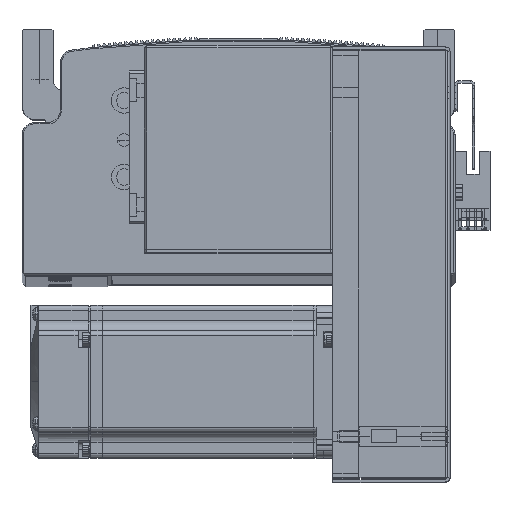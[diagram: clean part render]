
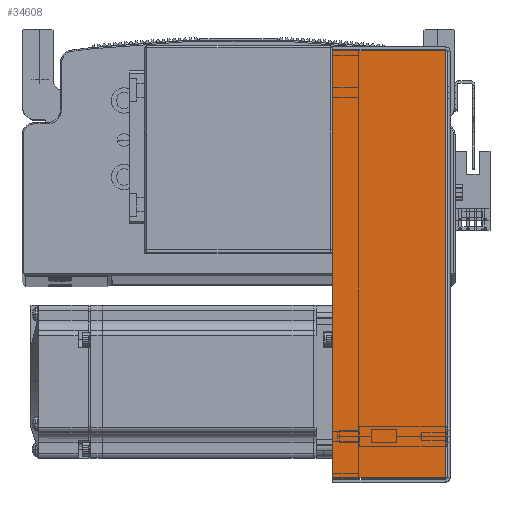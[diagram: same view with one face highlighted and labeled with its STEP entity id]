
A CAD part, top view. The second image highlights one B-rep face of the part: STEP entity #34608.
In plain terms, the highlighted planar face has unit normal (0, 0, 1) as drawn and (0, 0, -1) by its records, which use the part's own axes.
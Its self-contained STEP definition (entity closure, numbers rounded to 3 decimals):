
#867 = LINE ( 'NONE', #66385, #904 ) ;
#904 = VECTOR ( 'NONE', #66297, 1000. ) ;
#938 = VECTOR ( 'NONE', #66590, 1000. ) ;
#944 = LINE ( 'NONE', #66529, #938 ) ;
#1481 = LINE ( 'NONE', #24983, #1514 ) ;
#1514 = VECTOR ( 'NONE', #24994, 1000. ) ;
#1727 = LINE ( 'NONE', #24880, #1743 ) ;
#1743 = VECTOR ( 'NONE', #24864, 1000. ) ;
#2760 = AXIS2_PLACEMENT_3D ( 'NONE', #54348, #54337, #54339 ) ;
#10324 = CARTESIAN_POINT ( 'NONE',  ( -83.793, 45., -40.5 ) ) ;
#10330 = CARTESIAN_POINT ( 'NONE',  ( 83.793, 45., -40.5 ) ) ;
#10347 = CARTESIAN_POINT ( 'NONE',  ( -83.793, 0.737, -40.5 ) ) ;
#10405 = CARTESIAN_POINT ( 'NONE',  ( 83.793, 0.737, -40.5 ) ) ;
#19817 = FACE_OUTER_BOUND ( 'NONE', #78969, .T. ) ;
#24864 = DIRECTION ( 'NONE',  ( 0., 1., 0. ) ) ;
#24880 = CARTESIAN_POINT ( 'NONE',  ( -83.793, 0., -40.5 ) ) ;
#24983 = CARTESIAN_POINT ( 'NONE',  ( 84.5, 45., -40.5 ) ) ;
#24994 = DIRECTION ( 'NONE',  ( 1., 0., 0. ) ) ;
#34608 = ADVANCED_FACE ( 'NONE', ( #19817 ), #54308, .F. ) ;
#40605 = ORIENTED_EDGE ( 'NONE', *, *, #63926, .T. ) ;
#40657 = ORIENTED_EDGE ( 'NONE', *, *, #63885, .T. ) ;
#40748 = ORIENTED_EDGE ( 'NONE', *, *, #63981, .F. ) ;
#40829 = ORIENTED_EDGE ( 'NONE', *, *, #63953, .F. ) ;
#54308 = PLANE ( 'NONE',  #2760 ) ;
#54337 = DIRECTION ( 'NONE',  ( 0., 0., 1. ) ) ;
#54339 = DIRECTION ( 'NONE',  ( 0., -1., 0. ) ) ;
#54348 = CARTESIAN_POINT ( 'NONE',  ( 0., 0., -40.5 ) ) ;
#63885 = EDGE_CURVE ( 'NONE', #87732, #87499, #1727, .T. ) ;
#63926 = EDGE_CURVE ( 'NONE', #87499, #87648, #1481, .T. ) ;
#63953 = EDGE_CURVE ( 'NONE', #87869, #87648, #867, .T. ) ;
#63981 = EDGE_CURVE ( 'NONE', #87732, #87869, #944, .T. ) ;
#66297 = DIRECTION ( 'NONE',  ( 0., 1., 0. ) ) ;
#66385 = CARTESIAN_POINT ( 'NONE',  ( 83.793, 0., -40.5 ) ) ;
#66529 = CARTESIAN_POINT ( 'NONE',  ( 0., 0.737, -40.5 ) ) ;
#66590 = DIRECTION ( 'NONE',  ( 1., 0., 0. ) ) ;
#78969 = EDGE_LOOP ( 'NONE', ( #40748, #40657, #40605, #40829 ) ) ;
#87499 = VERTEX_POINT ( 'NONE', #10324 ) ;
#87648 = VERTEX_POINT ( 'NONE', #10330 ) ;
#87732 = VERTEX_POINT ( 'NONE', #10347 ) ;
#87869 = VERTEX_POINT ( 'NONE', #10405 ) ;
